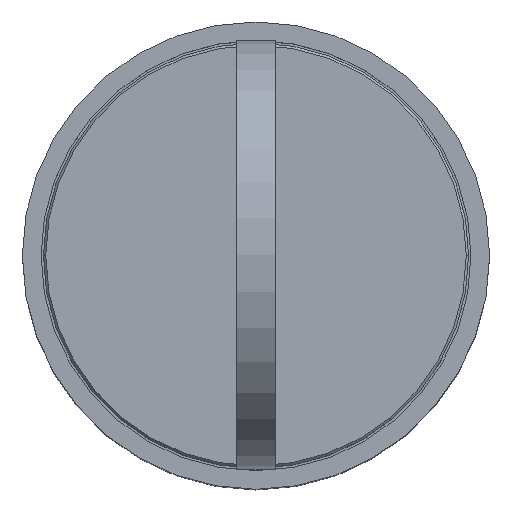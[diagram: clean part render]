
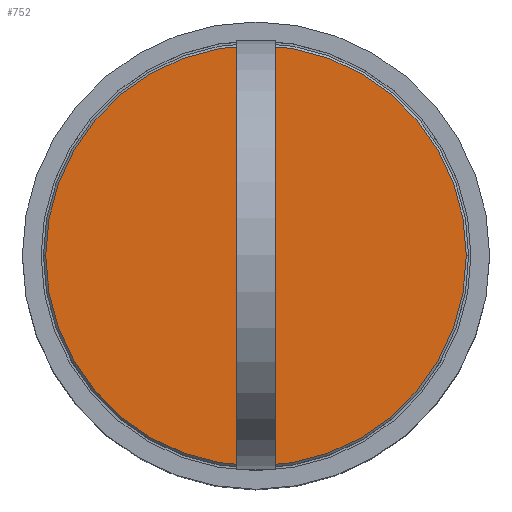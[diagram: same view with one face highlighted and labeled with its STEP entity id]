
A CAD part, top view. The second image highlights one B-rep face of the part: STEP entity #752.
In plain terms, the highlighted planar face has unit normal (0, 0, 1).
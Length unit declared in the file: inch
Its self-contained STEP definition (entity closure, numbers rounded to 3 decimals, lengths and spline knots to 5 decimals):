
#25 = EDGE_CURVE ( 'NONE', #307, #749, #916, .T. ) ;
#38 = DIRECTION ( 'NONE',  ( 1., 0., 0. ) ) ;
#40 = ORIENTED_EDGE ( 'NONE', *, *, #25, .T. ) ;
#54 = DIRECTION ( 'NONE',  ( 0., 0., 1. ) ) ;
#61 = CARTESIAN_POINT ( 'NONE',  ( -1.35, 0., 0.25 ) ) ;
#165 = AXIS2_PLACEMENT_3D ( 'NONE', #1017, #54, #614 ) ;
#231 = CARTESIAN_POINT ( 'NONE',  ( 1.35, 0., 0.25 ) ) ;
#307 = VERTEX_POINT ( 'NONE', #231 ) ;
#342 = CARTESIAN_POINT ( 'NONE',  ( 0., 0., 0.25 ) ) ;
#355 = DIRECTION ( 'NONE',  ( 0., 0., 1. ) ) ;
#385 = EDGE_LOOP ( 'NONE', ( #484, #40 ) ) ;
#484 = ORIENTED_EDGE ( 'NONE', *, *, #1043, .T. ) ;
#526 = AXIS2_PLACEMENT_3D ( 'NONE', #342, #920, #754 ) ;
#614 = DIRECTION ( 'NONE',  ( 1., 0., 0. ) ) ;
#744 = AXIS2_PLACEMENT_3D ( 'NONE', #779, #355, #38 ) ;
#748 = FACE_OUTER_BOUND ( 'NONE', #385, .T. ) ;
#749 = VERTEX_POINT ( 'NONE', #61 ) ;
#752 = ADVANCED_FACE ( 'NONE', ( #748 ), #881, .T. ) ;
#754 = DIRECTION ( 'NONE',  ( 1., 0., 0. ) ) ;
#779 = CARTESIAN_POINT ( 'NONE',  ( 0., 0., 0.25 ) ) ;
#881 = PLANE ( 'NONE',  #165 ) ;
#913 = CIRCLE ( 'NONE', #744, 1.35 ) ;
#916 = CIRCLE ( 'NONE', #526, 1.35 ) ;
#920 = DIRECTION ( 'NONE',  ( 0., 0., 1. ) ) ;
#1017 = CARTESIAN_POINT ( 'NONE',  ( 0., 0., 0.25 ) ) ;
#1043 = EDGE_CURVE ( 'NONE', #749, #307, #913, .T. ) ;
